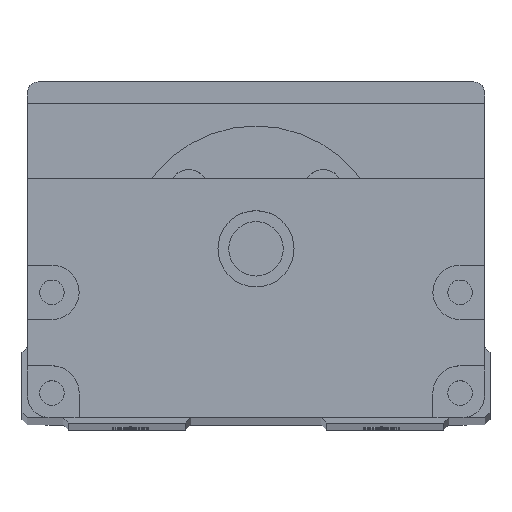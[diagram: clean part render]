
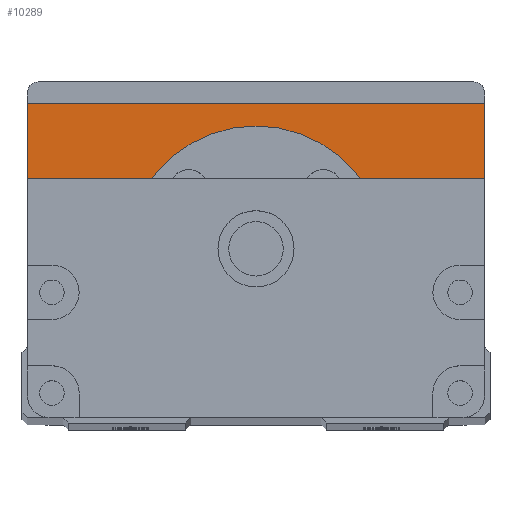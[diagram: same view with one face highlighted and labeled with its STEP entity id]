
A CAD part, top view. The second image highlights one B-rep face of the part: STEP entity #10289.
In plain terms, the highlighted planar face has unit normal (0, 0, 1) as drawn and (0, 0, -1) by its records, which use the part's own axes.
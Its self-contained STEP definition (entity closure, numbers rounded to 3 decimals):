
#107 = VERTEX_POINT ( 'NONE', #23832 ) ;
#319 = LINE ( 'NONE', #9597, #14629 ) ;
#384 = EDGE_CURVE ( 'NONE', #21933, #11661, #10141, .T. ) ;
#418 = LINE ( 'NONE', #20163, #23315 ) ;
#459 = CARTESIAN_POINT ( 'NONE',  ( 38., 0., 0. ) ) ;
#575 = ORIENTED_EDGE ( 'NONE', *, *, #9576, .F. ) ;
#577 = DIRECTION ( 'NONE',  ( -1., 0., 0. ) ) ;
#620 = VECTOR ( 'NONE', #12832, 1000. ) ;
#642 = EDGE_CURVE ( 'NONE', #13777, #12348, #10423, .T. ) ;
#677 = DIRECTION ( 'NONE',  ( 0., 0., -1. ) ) ;
#789 = CIRCLE ( 'NONE', #16237, 23.866 ) ;
#1268 = EDGE_LOOP ( 'NONE', ( #5450, #12272, #16040, #8107, #14561, #23540 ) ) ;
#1646 = CARTESIAN_POINT ( 'NONE',  ( -42., 4., 0. ) ) ;
#2373 = DIRECTION ( 'NONE',  ( 0., 0., -1. ) ) ;
#2810 = FACE_BOUND ( 'NONE', #7250, .T. ) ;
#3500 = CIRCLE ( 'NONE', #4879, 23.866 ) ;
#4200 = VECTOR ( 'NONE', #16852, 1000. ) ;
#4879 = AXIS2_PLACEMENT_3D ( 'NONE', #13794, #24398, #5681 ) ;
#5167 = CARTESIAN_POINT ( 'NONE',  ( -12.393, 10.604, 0. ) ) ;
#5450 = ORIENTED_EDGE ( 'NONE', *, *, #11816, .F. ) ;
#5681 = DIRECTION ( 'NONE',  ( 1., 0., 0. ) ) ;
#5839 = EDGE_CURVE ( 'NONE', #6410, #18467, #3500, .T. ) ;
#6060 = AXIS2_PLACEMENT_3D ( 'NONE', #11757, #8415, #11917 ) ;
#6290 = AXIS2_PLACEMENT_3D ( 'NONE', #17863, #15956, #577 ) ;
#6410 = VERTEX_POINT ( 'NONE', #21528 ) ;
#6523 = EDGE_CURVE ( 'NONE', #16857, #21933, #418, .T. ) ;
#7194 = CARTESIAN_POINT ( 'NONE',  ( 42., 59., 0. ) ) ;
#7250 = EDGE_LOOP ( 'NONE', ( #575, #23671, #13921, #12230 ) ) ;
#7417 = LINE ( 'NONE', #17309, #21974 ) ;
#8107 = ORIENTED_EDGE ( 'NONE', *, *, #9843, .F. ) ;
#8415 = DIRECTION ( 'NONE',  ( 0., 0., 1. ) ) ;
#8729 = DIRECTION ( 'NONE',  ( -1., 0., 0. ) ) ;
#8752 = EDGE_CURVE ( 'NONE', #18467, #17417, #319, .T. ) ;
#9270 = LINE ( 'NONE', #11364, #4200 ) ;
#9576 = EDGE_CURVE ( 'NONE', #17417, #11633, #789, .T. ) ;
#9597 = CARTESIAN_POINT ( 'NONE',  ( 0., 10.604, 0. ) ) ;
#9843 = EDGE_CURVE ( 'NONE', #11661, #107, #23676, .T. ) ;
#10141 = LINE ( 'NONE', #24046, #620 ) ;
#10289 = ADVANCED_FACE ( 'NONE', ( #12961, #2810 ), #10358, .F. ) ;
#10358 = PLANE ( 'NONE',  #22006 ) ;
#10423 = CIRCLE ( 'NONE', #6290, 4. ) ;
#10478 = CIRCLE ( 'NONE', #13474, 23.866 ) ;
#10800 = DIRECTION ( 'NONE',  ( 1., 0., 0. ) ) ;
#11364 = CARTESIAN_POINT ( 'NONE',  ( 42., 0., 0. ) ) ;
#11633 = VERTEX_POINT ( 'NONE', #13090 ) ;
#11661 = VERTEX_POINT ( 'NONE', #1646 ) ;
#11757 = CARTESIAN_POINT ( 'NONE',  ( -38., 4., 0. ) ) ;
#11816 = EDGE_CURVE ( 'NONE', #12348, #16857, #9270, .T. ) ;
#11825 = DIRECTION ( 'NONE',  ( -1., 0., 0. ) ) ;
#11917 = DIRECTION ( 'NONE',  ( -1., 0., 0. ) ) ;
#12230 = ORIENTED_EDGE ( 'NONE', *, *, #19032, .F. ) ;
#12272 = ORIENTED_EDGE ( 'NONE', *, *, #642, .F. ) ;
#12348 = VERTEX_POINT ( 'NONE', #14287 ) ;
#12832 = DIRECTION ( 'NONE',  ( 0., -1., 0. ) ) ;
#12961 = FACE_OUTER_BOUND ( 'NONE', #1268, .T. ) ;
#13090 = CARTESIAN_POINT ( 'NONE',  ( -23.866, 31., 0. ) ) ;
#13474 = AXIS2_PLACEMENT_3D ( 'NONE', #17509, #2373, #21498 ) ;
#13777 = VERTEX_POINT ( 'NONE', #459 ) ;
#13794 = CARTESIAN_POINT ( 'NONE',  ( 0., 31., 0. ) ) ;
#13921 = ORIENTED_EDGE ( 'NONE', *, *, #5839, .F. ) ;
#13985 = CARTESIAN_POINT ( 'NONE',  ( 0., 31., 0. ) ) ;
#14287 = CARTESIAN_POINT ( 'NONE',  ( 42., 4., 0. ) ) ;
#14561 = ORIENTED_EDGE ( 'NONE', *, *, #384, .F. ) ;
#14629 = VECTOR ( 'NONE', #17482, 1000. ) ;
#15012 = EDGE_CURVE ( 'NONE', #13777, #107, #7417, .T. ) ;
#15894 = DIRECTION ( 'NONE',  ( 1., 0., 0. ) ) ;
#15956 = DIRECTION ( 'NONE',  ( 0., 0., 1. ) ) ;
#16040 = ORIENTED_EDGE ( 'NONE', *, *, #15012, .T. ) ;
#16237 = AXIS2_PLACEMENT_3D ( 'NONE', #13985, #677, #15894 ) ;
#16260 = DIRECTION ( 'NONE',  ( 0., 0., 1. ) ) ;
#16852 = DIRECTION ( 'NONE',  ( 0., 1., 0. ) ) ;
#16857 = VERTEX_POINT ( 'NONE', #7194 ) ;
#17309 = CARTESIAN_POINT ( 'NONE',  ( -42., 0., 0. ) ) ;
#17417 = VERTEX_POINT ( 'NONE', #5167 ) ;
#17482 = DIRECTION ( 'NONE',  ( -1., 0., 0. ) ) ;
#17509 = CARTESIAN_POINT ( 'NONE',  ( 0., 31., 0. ) ) ;
#17863 = CARTESIAN_POINT ( 'NONE',  ( 38., 4., 0. ) ) ;
#18467 = VERTEX_POINT ( 'NONE', #20090 ) ;
#19032 = EDGE_CURVE ( 'NONE', #11633, #6410, #10478, .T. ) ;
#20090 = CARTESIAN_POINT ( 'NONE',  ( 12.393, 10.604, 0. ) ) ;
#20163 = CARTESIAN_POINT ( 'NONE',  ( 0., 59., 0. ) ) ;
#21160 = CARTESIAN_POINT ( 'NONE',  ( -42., 59., 0. ) ) ;
#21498 = DIRECTION ( 'NONE',  ( 1., 0., 0. ) ) ;
#21528 = CARTESIAN_POINT ( 'NONE',  ( 23.866, 31., 0. ) ) ;
#21933 = VERTEX_POINT ( 'NONE', #21160 ) ;
#21974 = VECTOR ( 'NONE', #11825, 1000. ) ;
#22006 = AXIS2_PLACEMENT_3D ( 'NONE', #23828, #16260, #10800 ) ;
#23315 = VECTOR ( 'NONE', #8729, 1000. ) ;
#23540 = ORIENTED_EDGE ( 'NONE', *, *, #6523, .F. ) ;
#23671 = ORIENTED_EDGE ( 'NONE', *, *, #8752, .F. ) ;
#23676 = CIRCLE ( 'NONE', #6060, 4. ) ;
#23828 = CARTESIAN_POINT ( 'NONE',  ( 0., 0., 0. ) ) ;
#23832 = CARTESIAN_POINT ( 'NONE',  ( -38., 0., 0. ) ) ;
#24046 = CARTESIAN_POINT ( 'NONE',  ( -42., 0., 0. ) ) ;
#24398 = DIRECTION ( 'NONE',  ( 0., 0., -1. ) ) ;
